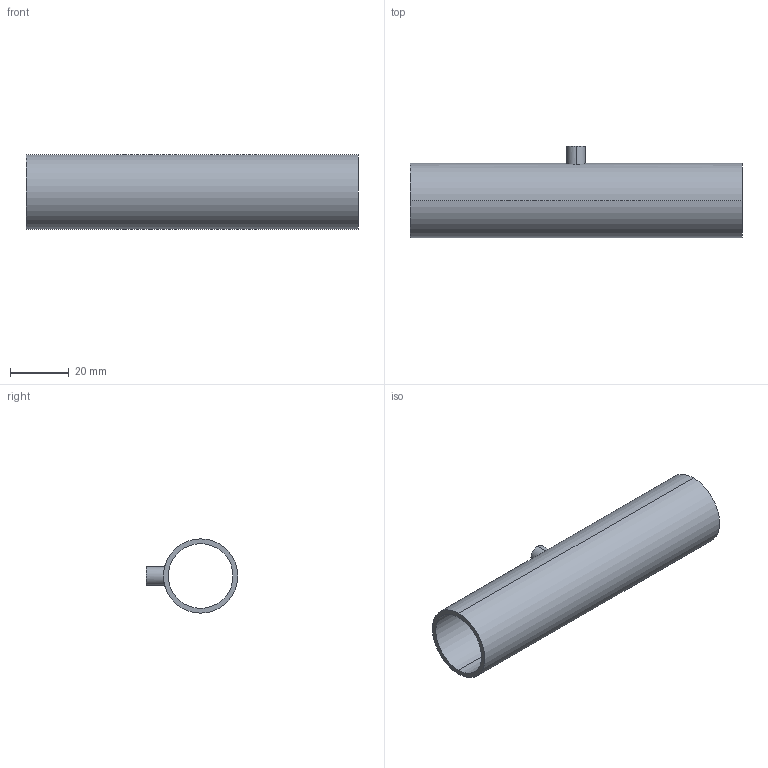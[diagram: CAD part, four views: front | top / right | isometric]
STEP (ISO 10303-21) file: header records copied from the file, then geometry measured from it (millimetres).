
FILE_DESCRIPTION (( 'STEP AP214' ), '1' );
FILE_NAME ('TEG7RS6L1.0x.25-...STEP', '2016-05-24T08:07:34', ( 'eran' ), ( '' ), 'SwSTEP 2.0', 'SolidWorks 2016', '' );
FILE_SCHEMA (( 'AUTOMOTIVE_DESIGN' ));
Length unit declared in the file: inch
Products named in the file (1): TEG7RS6L1.0x.25-..
Bounding box: 113.4 x 31.3 x 25.4 mm (x, y, z)
Volume: 14026 mm3; surface area: 17367.1 mm2
Topology: 1 solids, 1 shells, 11 faces, 24 edges, 16 vertices
Faces by surface type: cylinder 8, plane 3
Entity records: 474 total; most frequent: CARTESIAN_POINT 176, DIRECTION 56, ORIENTED_EDGE 48, EDGE_CURVE 24, AXIS2_PLACEMENT_3D 24, VERTEX_POINT 16, EDGE_LOOP 16, CIRCLE 12
